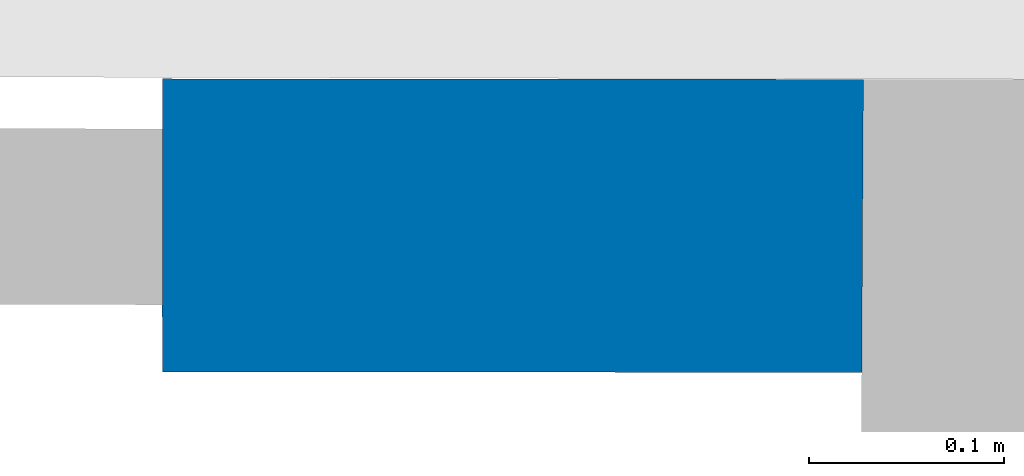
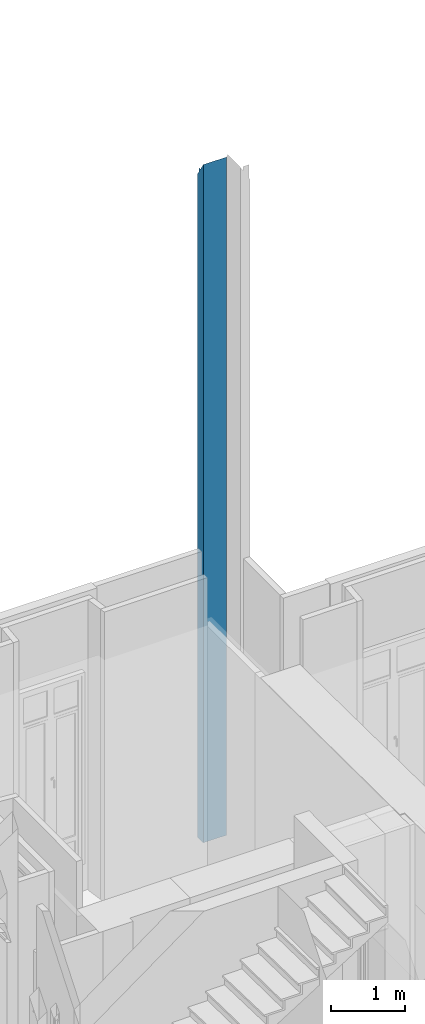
# One storey, part 65 of 97: 1 wall.
"""IFC2X3 building model written with IfcOpenShell, lengths in centimetres."""

from ifc_helpers import new_model, entity, si_unit, converted_unit, direction, frame, origin, origin_with_axes, place, context, subcontext, project, spatial, faceted_brep, material, layer, layer_set, layer_usage, type_object, element, save


model = new_model("IFC2X3")

# Units and contexts
model_context = context("Model", 3, precision=0.0001, world=origin(), true_north=direction((0.225632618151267, 0.974212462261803, 0.0)))
body_context = subcontext(model_context, "Body", "Model", "MODEL_VIEW")
ifc_project = project(units=[si_unit("LENGTHUNIT", "METRE", prefix="CENTI"), si_unit("AREAUNIT", "SQUARE_METRE", prefix="CENTI"), si_unit("VOLUMEUNIT", "CUBIC_METRE", prefix="CENTI"), converted_unit("PLANEANGLEUNIT", "DEGREE", entity("IfcRatioMeasure", 0.0174532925), si_unit("PLANEANGLEUNIT", "RADIAN"), dimensions=[0, 0, 0, 0, 0, 0, 0])], contexts=[model_context])

# Site, building, storey
site_placement = place(None, origin_with_axes())
site = spatial("IfcSite", under=ifc_project, at=site_placement, Name="Default Site", CompositionType="ELEMENT")
building_placement = place(site_placement, origin_with_axes())
building = spatial("IfcBuilding", under=site, at=building_placement, Name="Default Building", CompositionType="ELEMENT")
storey_placement = place(building_placement, origin_with_axes())
storey = spatial("IfcBuildingStorey", under=building, at=storey_placement, Name="Rez-de-chaussée", CompositionType="ELEMENT", Elevation=0.0)

# Wall
ifc_material = material(Name="<aucun>")
ifc_layer = layer(ifc_material, 15.0)
ifc_layer_set = layer_set([ifc_layer], Name="default")
ifc_layer_usage = layer_usage(ifc_layer_set, "AXIS2", "POSITIVE", -7.5)
wall_type = type_object("IfcWallType", Name="default 150", PredefinedType="NOTDEFINED", material=ifc_layer_set)
wall_placement = place(storey_placement, frame((-651.679586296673, 755.706781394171, 0.0128503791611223), z_axis=(0.0, 0.0, 1.0), x_axis=(-0.999999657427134, 0.000827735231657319, 0.0)))
element("IfcWall", 1, at=wall_placement, inside=storey, type_object=wall_type, material=ifc_layer_usage, Name="Enveloppe 374087", context=body_context, shape_type="Brep", body=[
    faceted_brep([(50.7489059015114, 7.50002276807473, -4.62918597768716e-10), (14.9655074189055, 7.50002276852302, -4.62918597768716e-10), (14.9655074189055, 7.50002276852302, 1116.80786647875), (50.7489059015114, 7.50002276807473, 1116.99383297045), (50.7832669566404, 4.70011014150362, -4.62918597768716e-10), (50.7488869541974, 4.70024132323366, -4.62918597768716e-10), (50.7488869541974, 4.70024132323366, 1112.48524227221), (50.7832669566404, 4.70011014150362, 1112.48524227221), (50.7832669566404, 4.70011014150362, 1104.69057598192), (50.7832669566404, 4.70011014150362, 853.897500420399), (50.7808334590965, 4.0683940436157, 853.897500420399), (50.8464940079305, 4.06829030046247, 853.897500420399), (50.848925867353, 4.06828645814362, 477.795339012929), (50.7808334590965, 4.0683940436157, 477.795339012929), (50.8145585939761, -4.30007303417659, 1097.99215831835), (50.8356827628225, -4.30015363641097, 1097.99215831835), (50.8356827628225, -4.30015363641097, 853.897500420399), (50.8145585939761, -4.30007303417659, 853.897500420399), (50.8489276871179, 4.69983070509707, 853.897500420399), (50.7832668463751, 4.70008124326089, 853.897500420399), (50.7832668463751, 4.70008124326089, 1104.69057598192), (50.8489276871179, 4.69983070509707, 1104.69057598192), (14.8928080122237, -7.50001199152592, -4.62918597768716e-10), (50.748924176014, -7.50001199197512, -4.62918597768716e-10), (50.748924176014, -7.50001199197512, 1092.83897914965), (14.8928080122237, -7.50001199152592, 1092.65263118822), (50.7488852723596, 4.06844452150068, 477.795339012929), (50.7488852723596, 4.06844452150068, -4.62918597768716e-10), (50.7808334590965, 4.0683940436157, -4.62918597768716e-10), (50.748896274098, -4.93155536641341, 477.795339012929), (50.834679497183, -4.93169090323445, 477.795339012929), (50.834679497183, -4.93169090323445, 853.897500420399), (50.834679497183, -4.93169090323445, 1096.97516002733), (50.748896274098, -4.93155536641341, 1096.97496929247), (50.8145585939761, -4.30007303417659, 1104.69057598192), (50.7488979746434, -4.29982249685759, 1104.69057598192), (50.7488979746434, -4.29982249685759, 1097.99225368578), (14.9655074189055, 7.50001517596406, -4.62918597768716e-10), (50.748886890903, 4.70022473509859, -4.62918597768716e-10), (50.7488853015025, 4.06846296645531, -4.62918597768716e-10), (50.7488979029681, -4.29984128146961, -4.62918597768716e-10), (50.748896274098, -4.93155536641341, -4.62918597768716e-10), (14.9055124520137, -4.87491665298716, -4.62918597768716e-10), (14.9055124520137, -4.87491665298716, 1096.87988796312), (50.7488962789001, -4.93155387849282, 1096.97496836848), (50.7488979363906, -4.29983092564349, 1097.99224725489), (50.7488852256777, 4.06843947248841, 1111.46787710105), (50.7488868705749, 4.70021843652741, 1112.48524618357), (50.7489058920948, 7.50001985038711, 1116.99383478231), (14.9655074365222, 7.50002063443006, 1116.80786308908), (50.7488868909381, 7.50002276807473, -4.62918597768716e-10), (50.7488868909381, 7.50002276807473, 1116.99383297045), (50.748886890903, 4.70022473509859, 1112.48524227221), (14.9055210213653, -4.87491669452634, -4.62918597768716e-10), (14.9055210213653, -4.87491669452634, 1096.87988796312), (14.9655074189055, 7.50001517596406, 1116.80786647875), (50.7488979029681, -4.29984128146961, 477.795339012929), (50.7488979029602, -4.93155536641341, 477.795339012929), (50.7488979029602, -4.93155536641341, -4.62918597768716e-10), (50.7488853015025, 4.06846296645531, 477.795339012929), (50.7488853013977, -4.29984128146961, 477.795339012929), (50.7488853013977, -4.29984128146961, -4.62918597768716e-10), (50.748924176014, -7.49999189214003, -4.62918597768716e-10), (50.748924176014, -7.49999189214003, 1092.83897914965), (50.7488962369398, -4.93156687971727, 1096.97497644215), (14.9055124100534, -4.87492965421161, 1096.87989603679), (14.892808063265, -7.49999617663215, 1092.65262136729), (50.7489241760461, -4.93155536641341, -4.62918597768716e-10), (50.7489241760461, -4.93155536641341, 477.795339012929), (50.7489241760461, -4.93155536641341, 1096.97496929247), (14.8927875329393, -7.50001189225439, -4.62918597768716e-10), (14.8927875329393, -7.50001189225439, 1092.65263118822), (50.7488853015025, 4.06846296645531, 1111.46786251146), (50.7808335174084, 4.06841211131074, 1111.46794665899), (50.7832670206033, 4.70012996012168, 1112.48522996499), (50.7488869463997, 4.70024193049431, 1112.48523159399), (50.7808565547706, 4.06839395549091, 1111.4679578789), (50.7808565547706, 4.06839395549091, 1104.69057598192), (50.7808565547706, 4.06839395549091, 853.897500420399), (50.7808565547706, 4.06839395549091, 477.795339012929), (50.7808565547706, 4.06839395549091, -4.62918597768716e-10), (50.8489259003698, 4.0683073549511, 477.795339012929), (50.8316195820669, -0.140511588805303, 477.795339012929), (50.7647667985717, -0.140280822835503, 477.795339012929), (50.7647667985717, -0.140280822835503, 1104.69057598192), (50.8316195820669, -0.140511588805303, 1104.69057598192), (50.8489259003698, 4.0683073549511, 1104.69057598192), (50.7808334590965, 4.0683940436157, 1104.69057598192), (50.8489259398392, 4.06825967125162, 1104.69057598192), (50.8316547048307, -0.140464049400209, 1104.69057598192), (50.8316545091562, -0.140511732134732, 853.897500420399), (50.8489259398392, 4.06825967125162, 853.897500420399), (50.8316545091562, -0.140511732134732, 1104.69057598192), (50.7488979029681, -4.29984128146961, 1097.99225368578), (50.7647667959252, -0.140281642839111, 1104.69057649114), (50.7808334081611, 4.06837826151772, 1111.46796767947), (50.7488851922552, 4.06842911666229, 1111.46788353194), (50.7808334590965, 4.0683940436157, 1111.4679578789), (50.7647746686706, -0.140280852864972, 1104.69057598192), (50.8145585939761, -4.30007303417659, 477.795339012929), (50.8356825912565, -4.30019860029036, 477.795339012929), (50.8346794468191, -4.93172277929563, 477.795339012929), (50.8346794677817, -4.93171628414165, 1096.97515599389), (50.8356826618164, -4.30017673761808, 1097.99214474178), (50.8145585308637, -4.30009258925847, 1097.99217046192), (50.7488979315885, -4.29983241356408, 1097.99224817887), (50.8356825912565, -4.30019860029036, 853.897500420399), (50.8346847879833, -4.93172278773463, 853.897500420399), (50.8346847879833, -4.93172278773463, 477.795339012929), (50.8356825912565, -4.30019860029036, 1097.99215831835), (50.8346847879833, -4.93172278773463, 1096.97516002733), (50.8489259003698, 4.0683073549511, 853.897500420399), (50.8422530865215, -0.140550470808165, 853.897500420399), (50.8417930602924, -0.431707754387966, 853.897500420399), (50.8417930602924, -0.431707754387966, 477.795339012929), (50.8422530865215, -0.140550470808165, 477.795339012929), (50.842275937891, -0.14055050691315, 853.897500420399), (50.842275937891, -0.14055050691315, 477.795339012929), (50.8417788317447, -0.431707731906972, 853.897500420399), (50.8356666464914, -4.30019857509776, 853.897500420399), (50.8356666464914, -4.30019857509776, 477.795339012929), (50.8417788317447, -0.431707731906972, 477.795339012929), (50.8304274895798, -0.140512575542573, 477.795339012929), (50.8304274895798, -0.140512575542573, 1104.69057598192), (50.7488979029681, -4.29984128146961, 1104.69057598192), (50.8145500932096, -4.3000729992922, 1097.99215831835), (50.8145500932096, -4.3000729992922, 853.897500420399), (50.8316195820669, -0.140511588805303, 853.897500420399), (50.8316280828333, -0.140511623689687, 1104.69057598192), (50.7488954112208, -4.29984127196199, 1097.99225368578), (50.7488954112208, -4.29984127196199, 1104.69057598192), (50.8489252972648, 4.69983070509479, 853.897500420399), (50.8489252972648, 4.69983070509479, 1104.69057598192)], [[[0, 1, 2, 3]], [[4, 5, 6, 7, 8, 9]], [[10, 11, 12, 13]], [[14, 15, 16, 17]], [[18, 19, 20, 21]], [[22, 23, 24, 25]], [[13, 26, 27, 28]], [[29, 30, 31, 32, 33]], [[34, 35, 36, 14]], [[37, 0, 38, 39, 40, 41, 42]], [[43, 44, 45, 46, 47, 48, 49]], [[38, 50, 51, 52]], [[37, 53, 54, 55]], [[56, 57, 58, 40]], [[59, 60, 61, 39]], [[22, 42, 41, 62]], [[63, 64, 65, 66]], [[62, 67, 68, 69, 63]], [[42, 70, 71, 43]], [[38, 4, 28, 39]], [[72, 73, 74, 75]], [[7, 76, 77, 8]], [[4, 9, 78, 79, 80]], [[13, 81, 82, 83]], [[84, 85, 86, 87]], [[88, 89, 90, 91]], [[88, 92, 90, 91]], [[59, 13, 83, 56]], [[93, 94, 95, 96]], [[97, 98, 87]], [[56, 99, 100, 101, 29]], [[33, 102, 103, 104, 105]], [[106, 107, 108, 100]], [[109, 110, 107, 106]], [[81, 100, 99]], [[17, 106, 111]], [[112, 113, 114, 115]], [[111, 116, 117, 81]], [[118, 119, 120, 121]], [[56, 83, 122, 99]], [[34, 123, 84, 124]], [[85, 125, 126, 127]], [[34, 14, 128]], [[84, 129, 130]], [[111, 10, 9, 18]], [[21, 8, 87, 86]], [[111, 131, 132, 86]]]),
])

save(model, "model.ifc")
